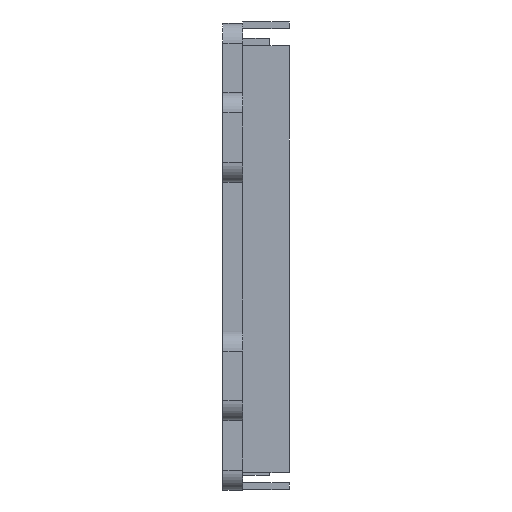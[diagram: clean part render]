
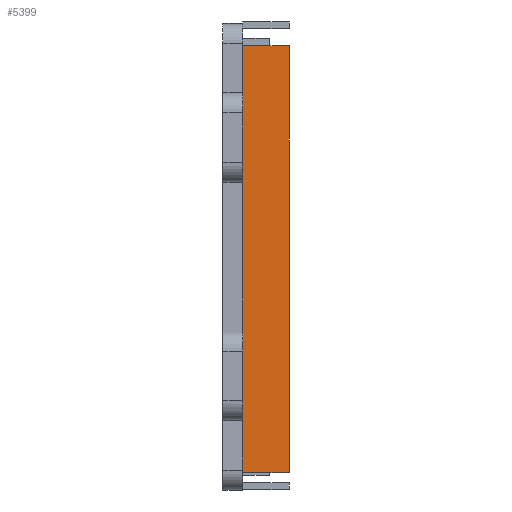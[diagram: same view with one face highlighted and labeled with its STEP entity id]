
A CAD part, left-side view. The second image highlights one B-rep face of the part: STEP entity #5399.
In plain terms, the highlighted planar face has unit normal (-1, 0, 0).
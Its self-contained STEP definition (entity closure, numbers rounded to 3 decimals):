
#118 = PLANE('',#119);
#119 = AXIS2_PLACEMENT_3D('',#120,#121,#122);
#120 = CARTESIAN_POINT('',(-22.,-29.3,70.));
#121 = DIRECTION('',(0.,1.,0.));
#122 = DIRECTION('',(1.,0.,0.));
#3538 = EDGE_CURVE('',#3539,#3541,#3543,.T.);
#3539 = VERTEX_POINT('',#3540);
#3540 = CARTESIAN_POINT('',(-20.4,-29.3,24.75));
#3541 = VERTEX_POINT('',#3542);
#3542 = CARTESIAN_POINT('',(-20.4,-29.3,67.75));
#3543 = SURFACE_CURVE('',#3544,(#3548,#3555),.PCURVE_S1.);
#3544 = LINE('',#3545,#3546);
#3545 = CARTESIAN_POINT('',(-20.4,-29.3,24.75));
#3546 = VECTOR('',#3547,1.);
#3547 = DIRECTION('',(0.,0.,1.));
#3548 = PCURVE('',#118,#3549);
#3549 = DEFINITIONAL_REPRESENTATION('',(#3550),#3554);
#3550 = LINE('',#3551,#3552);
#3551 = CARTESIAN_POINT('',(1.6,45.25));
#3552 = VECTOR('',#3553,1.);
#3553 = DIRECTION('',(0.,-1.));
#3554 = ( GEOMETRIC_REPRESENTATION_CONTEXT(2) 
PARAMETRIC_REPRESENTATION_CONTEXT() REPRESENTATION_CONTEXT('2D SPACE',''
  ) );
#3555 = PCURVE('',#3556,#3561);
#3556 = PLANE('',#3557);
#3557 = AXIS2_PLACEMENT_3D('',#3558,#3559,#3560);
#3558 = CARTESIAN_POINT('',(-20.4,-34.,24.75));
#3559 = DIRECTION('',(1.,0.,0.));
#3560 = DIRECTION('',(0.,0.,1.));
#3561 = DEFINITIONAL_REPRESENTATION('',(#3562),#3566);
#3562 = LINE('',#3563,#3564);
#3563 = CARTESIAN_POINT('',(0.,-4.7));
#3564 = VECTOR('',#3565,1.);
#3565 = DIRECTION('',(1.,0.));
#3566 = ( GEOMETRIC_REPRESENTATION_CONTEXT(2) 
PARAMETRIC_REPRESENTATION_CONTEXT() REPRESENTATION_CONTEXT('2D SPACE',''
  ) );
#3584 = PLANE('',#3585);
#3585 = AXIS2_PLACEMENT_3D('',#3586,#3587,#3588);
#3586 = CARTESIAN_POINT('',(-20.4,-34.,24.75));
#3587 = DIRECTION('',(0.,0.,1.));
#3588 = DIRECTION('',(1.,0.,0.));
#3638 = PLANE('',#3639);
#3639 = AXIS2_PLACEMENT_3D('',#3640,#3641,#3642);
#3640 = CARTESIAN_POINT('',(-20.4,-34.,67.75));
#3641 = DIRECTION('',(0.,0.,1.));
#3642 = DIRECTION('',(1.,0.,0.));
#5399 = ADVANCED_FACE('',(#5400),#3556,.F.);
#5400 = FACE_BOUND('',#5401,.F.);
#5401 = EDGE_LOOP('',(#5402,#5432,#5453,#5454));
#5402 = ORIENTED_EDGE('',*,*,#5403,.F.);
#5403 = EDGE_CURVE('',#5404,#5406,#5408,.T.);
#5404 = VERTEX_POINT('',#5405);
#5405 = CARTESIAN_POINT('',(-20.4,-34.,24.75));
#5406 = VERTEX_POINT('',#5407);
#5407 = CARTESIAN_POINT('',(-20.4,-34.,67.75));
#5408 = SURFACE_CURVE('',#5409,(#5413,#5420),.PCURVE_S1.);
#5409 = LINE('',#5410,#5411);
#5410 = CARTESIAN_POINT('',(-20.4,-34.,24.75));
#5411 = VECTOR('',#5412,1.);
#5412 = DIRECTION('',(0.,0.,1.));
#5413 = PCURVE('',#3556,#5414);
#5414 = DEFINITIONAL_REPRESENTATION('',(#5415),#5419);
#5415 = LINE('',#5416,#5417);
#5416 = CARTESIAN_POINT('',(0.,0.));
#5417 = VECTOR('',#5418,1.);
#5418 = DIRECTION('',(1.,0.));
#5419 = ( GEOMETRIC_REPRESENTATION_CONTEXT(2) 
PARAMETRIC_REPRESENTATION_CONTEXT() REPRESENTATION_CONTEXT('2D SPACE',''
  ) );
#5420 = PCURVE('',#5421,#5426);
#5421 = PLANE('',#5422);
#5422 = AXIS2_PLACEMENT_3D('',#5423,#5424,#5425);
#5423 = CARTESIAN_POINT('',(-20.4,-34.,24.75));
#5424 = DIRECTION('',(0.,1.,0.));
#5425 = DIRECTION('',(0.,0.,1.));
#5426 = DEFINITIONAL_REPRESENTATION('',(#5427),#5431);
#5427 = LINE('',#5428,#5429);
#5428 = CARTESIAN_POINT('',(0.,0.));
#5429 = VECTOR('',#5430,1.);
#5430 = DIRECTION('',(1.,0.));
#5431 = ( GEOMETRIC_REPRESENTATION_CONTEXT(2) 
PARAMETRIC_REPRESENTATION_CONTEXT() REPRESENTATION_CONTEXT('2D SPACE',''
  ) );
#5432 = ORIENTED_EDGE('',*,*,#5433,.T.);
#5433 = EDGE_CURVE('',#5404,#3539,#5434,.T.);
#5434 = SURFACE_CURVE('',#5435,(#5439,#5446),.PCURVE_S1.);
#5435 = LINE('',#5436,#5437);
#5436 = CARTESIAN_POINT('',(-20.4,-34.,24.75));
#5437 = VECTOR('',#5438,1.);
#5438 = DIRECTION('',(0.,1.,0.));
#5439 = PCURVE('',#3556,#5440);
#5440 = DEFINITIONAL_REPRESENTATION('',(#5441),#5445);
#5441 = LINE('',#5442,#5443);
#5442 = CARTESIAN_POINT('',(0.,0.));
#5443 = VECTOR('',#5444,1.);
#5444 = DIRECTION('',(0.,-1.));
#5445 = ( GEOMETRIC_REPRESENTATION_CONTEXT(2) 
PARAMETRIC_REPRESENTATION_CONTEXT() REPRESENTATION_CONTEXT('2D SPACE',''
  ) );
#5446 = PCURVE('',#3584,#5447);
#5447 = DEFINITIONAL_REPRESENTATION('',(#5448),#5452);
#5448 = LINE('',#5449,#5450);
#5449 = CARTESIAN_POINT('',(0.,0.));
#5450 = VECTOR('',#5451,1.);
#5451 = DIRECTION('',(0.,1.));
#5452 = ( GEOMETRIC_REPRESENTATION_CONTEXT(2) 
PARAMETRIC_REPRESENTATION_CONTEXT() REPRESENTATION_CONTEXT('2D SPACE',''
  ) );
#5453 = ORIENTED_EDGE('',*,*,#3538,.T.);
#5454 = ORIENTED_EDGE('',*,*,#5455,.F.);
#5455 = EDGE_CURVE('',#5406,#3541,#5456,.T.);
#5456 = SURFACE_CURVE('',#5457,(#5461,#5468),.PCURVE_S1.);
#5457 = LINE('',#5458,#5459);
#5458 = CARTESIAN_POINT('',(-20.4,-34.,67.75));
#5459 = VECTOR('',#5460,1.);
#5460 = DIRECTION('',(0.,1.,0.));
#5461 = PCURVE('',#3556,#5462);
#5462 = DEFINITIONAL_REPRESENTATION('',(#5463),#5467);
#5463 = LINE('',#5464,#5465);
#5464 = CARTESIAN_POINT('',(43.,0.));
#5465 = VECTOR('',#5466,1.);
#5466 = DIRECTION('',(0.,-1.));
#5467 = ( GEOMETRIC_REPRESENTATION_CONTEXT(2) 
PARAMETRIC_REPRESENTATION_CONTEXT() REPRESENTATION_CONTEXT('2D SPACE',''
  ) );
#5468 = PCURVE('',#3638,#5469);
#5469 = DEFINITIONAL_REPRESENTATION('',(#5470),#5474);
#5470 = LINE('',#5471,#5472);
#5471 = CARTESIAN_POINT('',(0.,0.));
#5472 = VECTOR('',#5473,1.);
#5473 = DIRECTION('',(0.,1.));
#5474 = ( GEOMETRIC_REPRESENTATION_CONTEXT(2) 
PARAMETRIC_REPRESENTATION_CONTEXT() REPRESENTATION_CONTEXT('2D SPACE',''
  ) );
